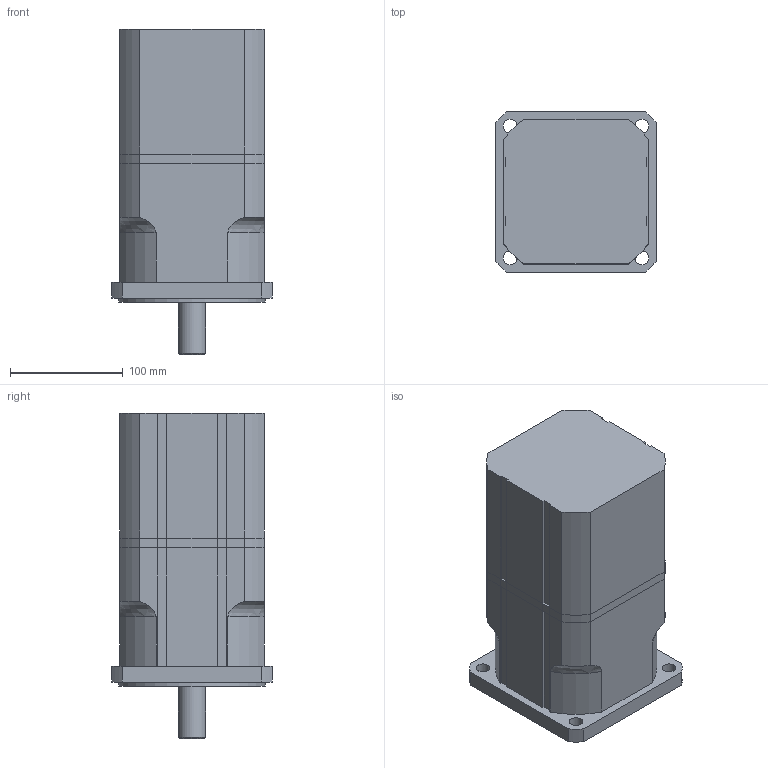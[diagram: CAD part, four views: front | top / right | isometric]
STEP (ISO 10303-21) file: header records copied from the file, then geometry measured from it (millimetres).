
FILE_DESCRIPTION(/* description */ ('Alibre Inc.'),/* implementation_level */ '2;1');
FILE_NAME(/* name */ 'export0',/* time_stamp */ '2011-04-05T08:17:28+02:00',/* author */ (''),/* organization */ (''),/* preprocessor_version */ 'ST-DEVELOPER v12',/* originating_system */ 'Alibre',/* authorisation */ '');
FILE_SCHEMA (('ALIBRE_SCHEMA','CONFIG_CONTROL_DESIGN'));
Length unit declared in the file: millimetre
Products named in the file (5): ID_1
Bounding box: 142 x 142 x 288 mm (x, y, z)
Volume: 4329890.5 mm3; surface area: 226030.2 mm2
Topology: 4 solids, 4 shells, 168 faces, 439 edges, 286 vertices
Faces by surface type: plane 93, cylinder 58, bspline 11, torus 4, cone 2
Full cylindrical faces by diameter (mm): 2.7 x8, 20 x2, 24 x3, 130 x1
Entity records: 16122 total; most frequent: CARTESIAN_POINT 3574, DIRECTION 2002, ORIENTED_EDGE 1996, EDGE_CURVE 998, AXIS2_PLACEMENT_3D 779, VERTEX_POINT 686, VECTOR 670, LINE 644
